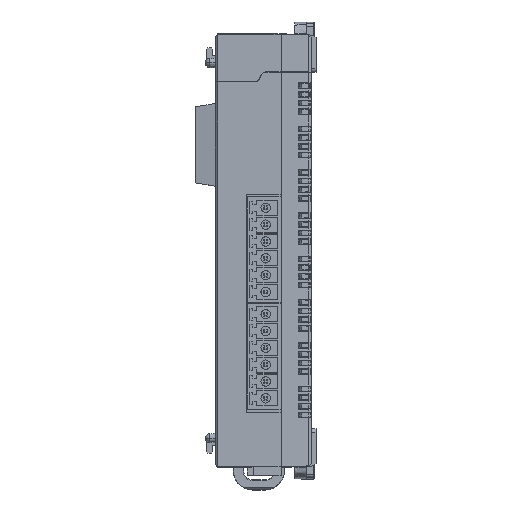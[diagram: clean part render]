
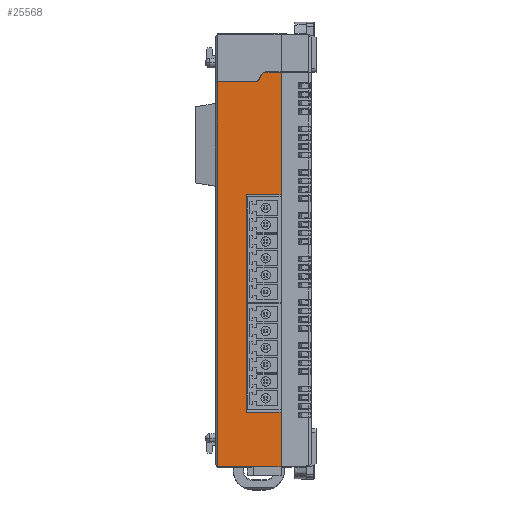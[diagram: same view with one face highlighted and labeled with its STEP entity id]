
A CAD part, top view. The second image highlights one B-rep face of the part: STEP entity #25568.
In plain terms, the highlighted planar face has unit normal (0, 0, 1).
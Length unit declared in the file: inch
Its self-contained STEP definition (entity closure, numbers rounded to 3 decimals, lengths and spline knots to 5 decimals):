
#2639 = LINE ( 'NONE', #65786, #68208 ) ;
#2654 = CARTESIAN_POINT ( 'NONE',  ( -0.14567, 1.45669, 1.1811 ) ) ;
#4169 = VERTEX_POINT ( 'NONE', #25184 ) ;
#5010 = CARTESIAN_POINT ( 'NONE',  ( -0.12294, 1.41732, 1.1811 ) ) ;
#7938 = ORIENTED_EDGE ( 'NONE', *, *, #67333, .F. ) ;
#8504 = VERTEX_POINT ( 'NONE', #57934 ) ;
#9204 = DIRECTION ( 'NONE',  ( 0., -1., 0. ) ) ;
#10232 = DIRECTION ( 'NONE',  ( 0., 0., 1. ) ) ;
#10540 = VECTOR ( 'NONE', #32667, 39.37008 ) ;
#10786 = LINE ( 'NONE', #39779, #10540 ) ;
#11472 = EDGE_CURVE ( 'NONE', #47870, #23379, #76159, .T. ) ;
#11547 = ORIENTED_EDGE ( 'NONE', *, *, #11472, .T. ) ;
#11909 = EDGE_CURVE ( 'NONE', #24713, #30900, #91336, .T. ) ;
#13182 = LINE ( 'NONE', #35052, #39116 ) ;
#14885 = DIRECTION ( 'NONE',  ( 0., -1., 0. ) ) ;
#16439 = DIRECTION ( 'NONE',  ( 0., -1., 0. ) ) ;
#17331 = DIRECTION ( 'NONE',  ( 1., 0., 0. ) ) ;
#17745 = VECTOR ( 'NONE', #90827, 39.37008 ) ;
#18409 = CARTESIAN_POINT ( 'NONE',  ( -0.51969, -1.77165, 1.1811 ) ) ;
#18490 = ORIENTED_EDGE ( 'NONE', *, *, #47879, .F. ) ;
#19691 = CARTESIAN_POINT ( 'NONE',  ( -0.15703, 1.43701, 1.1811 ) ) ;
#20036 = VERTEX_POINT ( 'NONE', #55785 ) ;
#20828 = EDGE_CURVE ( 'NONE', #8504, #37947, #82438, .T. ) ;
#23379 = VERTEX_POINT ( 'NONE', #19691 ) ;
#24225 = VERTEX_POINT ( 'NONE', #50774 ) ;
#24713 = VERTEX_POINT ( 'NONE', #34726 ) ;
#25184 = CARTESIAN_POINT ( 'NONE',  ( -0.17976, 1.39764, 1.1811 ) ) ;
#25364 = CARTESIAN_POINT ( 'NONE',  ( 0., -1.77165, 1.1811 ) ) ;
#25568 = ADVANCED_FACE ( 'NONE', ( #82420 ), #68619, .T. ) ;
#27518 = VECTOR ( 'NONE', #45403, 39.37008 ) ;
#27781 = ORIENTED_EDGE ( 'NONE', *, *, #40002, .T. ) ;
#28737 = ORIENTED_EDGE ( 'NONE', *, *, #11909, .F. ) ;
#29413 = ORIENTED_EDGE ( 'NONE', *, *, #75284, .F. ) ;
#30900 = VERTEX_POINT ( 'NONE', #81361 ) ;
#30940 = VERTEX_POINT ( 'NONE', #33836 ) ;
#31552 = LINE ( 'NONE', #53360, #42003 ) ;
#32667 = DIRECTION ( 'NONE',  ( 0., -1., 0. ) ) ;
#33372 = ORIENTED_EDGE ( 'NONE', *, *, #81190, .T. ) ;
#33836 = CARTESIAN_POINT ( 'NONE',  ( -0.28346, 0.45669, 1.1811 ) ) ;
#33920 = VECTOR ( 'NONE', #35309, 39.37008 ) ;
#34570 = ORIENTED_EDGE ( 'NONE', *, *, #20828, .F. ) ;
#34726 = CARTESIAN_POINT ( 'NONE',  ( -0.51969, 1.37795, 1.1811 ) ) ;
#35052 = CARTESIAN_POINT ( 'NONE',  ( 0., 1.45669, 1.1811 ) ) ;
#35248 = AXIS2_PLACEMENT_3D ( 'NONE', #5010, #39749, #53512 ) ;
#35309 = DIRECTION ( 'NONE',  ( -1., 0., 0. ) ) ;
#35414 = VERTEX_POINT ( 'NONE', #25364 ) ;
#37947 = VERTEX_POINT ( 'NONE', #41831 ) ;
#39116 = VECTOR ( 'NONE', #43095, 39.37008 ) ;
#39749 = DIRECTION ( 'NONE',  ( 0., 0., 1. ) ) ;
#39779 = CARTESIAN_POINT ( 'NONE',  ( -0.28346, 0.45669, 1.1811 ) ) ;
#39927 = VECTOR ( 'NONE', #17331, 39.37008 ) ;
#40002 = EDGE_CURVE ( 'NONE', #4169, #30900, #70471, .T. ) ;
#41496 = DIRECTION ( 'NONE',  ( 1., 0., 0. ) ) ;
#41831 = CARTESIAN_POINT ( 'NONE',  ( 0., 0.45669, 1.1811 ) ) ;
#42003 = VECTOR ( 'NONE', #9204, 39.37008 ) ;
#43095 = DIRECTION ( 'NONE',  ( 1., 0., 0. ) ) ;
#44103 = EDGE_LOOP ( 'NONE', ( #89917, #34570, #46974, #11547, #18490, #27781, #28737, #85669, #33372, #29413, #68994, #7938 ) ) ;
#44963 = CARTESIAN_POINT ( 'NONE',  ( 0., 1.77165, 1.1811 ) ) ;
#45403 = DIRECTION ( 'NONE',  ( 0.5, 0.866, 0. ) ) ;
#45877 = CARTESIAN_POINT ( 'NONE',  ( -0.12294, 1.45669, 1.1811 ) ) ;
#46247 = AXIS2_PLACEMENT_3D ( 'NONE', #57598, #59468, #14885 ) ;
#46796 = EDGE_CURVE ( 'NONE', #24713, #70821, #2639, .T. ) ;
#46974 = ORIENTED_EDGE ( 'NONE', *, *, #76229, .F. ) ;
#47870 = VERTEX_POINT ( 'NONE', #45877 ) ;
#47879 = EDGE_CURVE ( 'NONE', #4169, #23379, #68130, .T. ) ;
#48173 = LINE ( 'NONE', #77095, #83932 ) ;
#49607 = AXIS2_PLACEMENT_3D ( 'NONE', #76213, #10232, #54378 ) ;
#50774 = CARTESIAN_POINT ( 'NONE',  ( -0.28346, -1.32283, 1.1811 ) ) ;
#53360 = CARTESIAN_POINT ( 'NONE',  ( 0., 1.77165, 1.1811 ) ) ;
#53512 = DIRECTION ( 'NONE',  ( 0., -1., 0. ) ) ;
#53864 = CARTESIAN_POINT ( 'NONE',  ( -0.19113, 1.37795, 1.1811 ) ) ;
#54378 = DIRECTION ( 'NONE',  ( 1., 0., 0. ) ) ;
#55208 = CARTESIAN_POINT ( 'NONE',  ( -0.28346, -1.32283, 1.1811 ) ) ;
#55785 = CARTESIAN_POINT ( 'NONE',  ( 0., -1.32283, 1.1811 ) ) ;
#57598 = CARTESIAN_POINT ( 'NONE',  ( -0.21386, 1.41732, 1.1811 ) ) ;
#57934 = CARTESIAN_POINT ( 'NONE',  ( 0., 1.45669, 1.1811 ) ) ;
#59468 = DIRECTION ( 'NONE',  ( 0., 0., -1. ) ) ;
#65786 = CARTESIAN_POINT ( 'NONE',  ( -0.51969, -1.77165, 1.1811 ) ) ;
#66749 = DIRECTION ( 'NONE',  ( 0., -1., 0. ) ) ;
#67333 = EDGE_CURVE ( 'NONE', #30940, #24225, #10786, .T. ) ;
#68130 = LINE ( 'NONE', #2654, #27518 ) ;
#68208 = VECTOR ( 'NONE', #16439, 39.37008 ) ;
#68619 = PLANE ( 'NONE',  #49607 ) ;
#68994 = ORIENTED_EDGE ( 'NONE', *, *, #75393, .F. ) ;
#70471 = CIRCLE ( 'NONE', #46247, 0.03937 ) ;
#70821 = VERTEX_POINT ( 'NONE', #18409 ) ;
#75284 = EDGE_CURVE ( 'NONE', #20036, #35414, #31552, .T. ) ;
#75393 = EDGE_CURVE ( 'NONE', #24225, #20036, #77982, .T. ) ;
#76159 = CIRCLE ( 'NONE', #35248, 0.03937 ) ;
#76213 = CARTESIAN_POINT ( 'NONE',  ( -0.53937, 1.77165, 1.1811 ) ) ;
#76229 = EDGE_CURVE ( 'NONE', #47870, #8504, #13182, .T. ) ;
#77095 = CARTESIAN_POINT ( 'NONE',  ( -0.53937, -1.77165, 1.1811 ) ) ;
#77982 = LINE ( 'NONE', #55208, #17745 ) ;
#78953 = VECTOR ( 'NONE', #66749, 39.37008 ) ;
#80197 = EDGE_CURVE ( 'NONE', #37947, #30940, #85148, .T. ) ;
#81190 = EDGE_CURVE ( 'NONE', #70821, #35414, #48173, .T. ) ;
#81361 = CARTESIAN_POINT ( 'NONE',  ( -0.21386, 1.37795, 1.1811 ) ) ;
#82420 = FACE_OUTER_BOUND ( 'NONE', #44103, .T. ) ;
#82438 = LINE ( 'NONE', #44963, #78953 ) ;
#83932 = VECTOR ( 'NONE', #41496, 39.37008 ) ;
#84692 = CARTESIAN_POINT ( 'NONE',  ( -0.28346, 0.45669, 1.1811 ) ) ;
#85148 = LINE ( 'NONE', #84692, #33920 ) ;
#85669 = ORIENTED_EDGE ( 'NONE', *, *, #46796, .T. ) ;
#89917 = ORIENTED_EDGE ( 'NONE', *, *, #80197, .F. ) ;
#90827 = DIRECTION ( 'NONE',  ( 1., 0., 0. ) ) ;
#91336 = LINE ( 'NONE', #53864, #39927 ) ;
